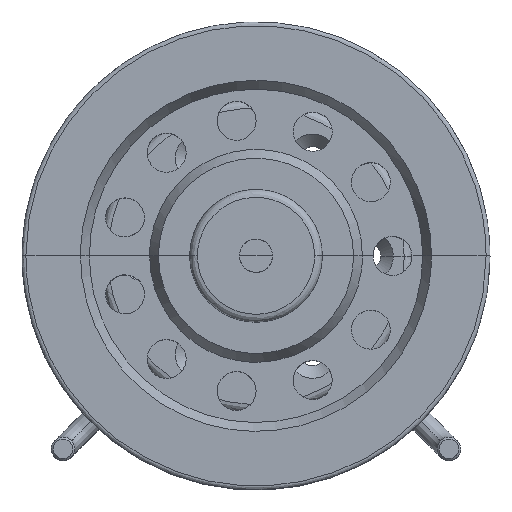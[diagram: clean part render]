
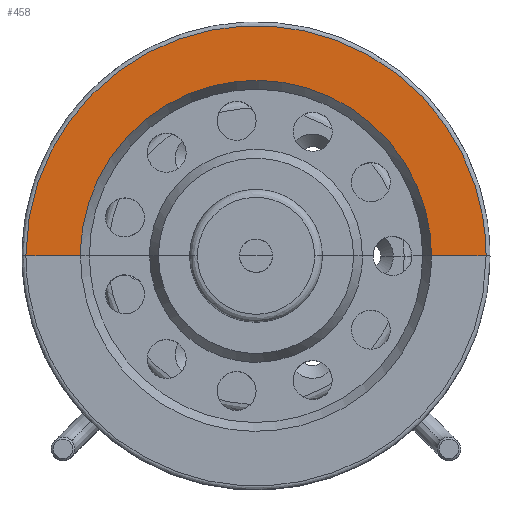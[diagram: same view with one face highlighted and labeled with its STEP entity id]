
A CAD part, top view. The second image highlights one B-rep face of the part: STEP entity #458.
In plain terms, the highlighted free-form (B-spline) face has degree [2, 1] with [5, 2] control points.
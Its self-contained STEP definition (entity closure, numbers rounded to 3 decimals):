
#458=ADVANCED_FACE($,(#767),#3934,.T.);
#767=FACE_OUTER_BOUND($,#1114,.T.);
#1114=EDGE_LOOP($,(#2295,#2296,#2297,#2298));
#2295=ORIENTED_EDGE($,*,*,#3217,.T.);
#2296=ORIENTED_EDGE($,*,*,#3124,.F.);
#2297=ORIENTED_EDGE($,*,*,#3132,.F.);
#2298=ORIENTED_EDGE($,*,*,#3196,.F.);
#3124=EDGE_CURVE($,#3589,#3650,#4295,.T.);
#3132=EDGE_CURVE($,#3580,#3589,#12921,.T.);
#3196=EDGE_CURVE($,#3641,#3580,#4341,.T.);
#3217=EDGE_CURVE($,#3641,#3650,#12951,.T.);
#3580=VERTEX_POINT($,#12567);
#3589=VERTEX_POINT($,#12576);
#3641=VERTEX_POINT($,#12628);
#3650=VERTEX_POINT($,#12637);
#3934=(
BOUNDED_SURFACE()
B_SPLINE_SURFACE(2,1,((#11975,#11976),(#11977,#11978),(#11979,#11980),(#11981,
#11982),(#11983,#11984)),.UNSPECIFIED.,.F.,.F.,.F.)
B_SPLINE_SURFACE_WITH_KNOTS((3,2,3),(2,2),(0.,1.571,3.142),
(81.,95.),.UNSPECIFIED.)
GEOMETRIC_REPRESENTATION_ITEM()
RATIONAL_B_SPLINE_SURFACE(((1.,1.),(0.707,0.707),
(1.,1.),(0.707,0.707),(1.,1.)))
REPRESENTATION_ITEM($)
SURFACE()
);
#4295=(
BOUNDED_CURVE()
B_SPLINE_CURVE(2,(#11281,#11282,#11283,#11284,#11285),.UNSPECIFIED.,.F.,
.F.)
B_SPLINE_CURVE_WITH_KNOTS((3,2,3),(0.,1.571,3.142),
.UNSPECIFIED.)
CURVE()
GEOMETRIC_REPRESENTATION_ITEM()
RATIONAL_B_SPLINE_CURVE((1.,0.707,1.,0.707,1.))
REPRESENTATION_ITEM($)
);
#4341=(
BOUNDED_CURVE()
B_SPLINE_CURVE(2,(#11543,#11544,#11545,#11546,#11547),.UNSPECIFIED.,.F.,
.F.)
B_SPLINE_CURVE_WITH_KNOTS((3,2,3),(-3.142,-1.571,0.),
.UNSPECIFIED.)
CURVE()
GEOMETRIC_REPRESENTATION_ITEM()
RATIONAL_B_SPLINE_CURVE((1.,0.707,1.,0.707,1.))
REPRESENTATION_ITEM($)
);
#11281=CARTESIAN_POINT($,(149.799,-64.236,55.048));
#11282=CARTESIAN_POINT($,(149.799,-19.236,55.048));
#11283=CARTESIAN_POINT($,(104.799,-19.236,55.048));
#11284=CARTESIAN_POINT($,(59.799,-19.236,55.048));
#11285=CARTESIAN_POINT($,(59.799,-64.236,55.048));
#11309=CARTESIAN_POINT($,(163.799,-64.236,55.048));
#11310=CARTESIAN_POINT($,(149.799,-64.236,55.048));
#11543=CARTESIAN_POINT($,(45.799,-64.236,55.048));
#11544=CARTESIAN_POINT($,(45.799,-5.236,55.048));
#11545=CARTESIAN_POINT($,(104.799,-5.236,55.048));
#11546=CARTESIAN_POINT($,(163.799,-5.236,55.048));
#11547=CARTESIAN_POINT($,(163.799,-64.236,55.048));
#11624=CARTESIAN_POINT($,(45.799,-64.236,55.048));
#11625=CARTESIAN_POINT($,(59.799,-64.236,55.048));
#11975=CARTESIAN_POINT($,(163.799,-64.236,55.048));
#11976=CARTESIAN_POINT($,(149.799,-64.236,55.048));
#11977=CARTESIAN_POINT($,(163.799,-5.236,55.048));
#11978=CARTESIAN_POINT($,(149.799,-19.236,55.048));
#11979=CARTESIAN_POINT($,(104.799,-5.236,55.048));
#11980=CARTESIAN_POINT($,(104.799,-19.236,55.048));
#11981=CARTESIAN_POINT($,(45.799,-5.236,55.048));
#11982=CARTESIAN_POINT($,(59.799,-19.236,55.048));
#11983=CARTESIAN_POINT($,(45.799,-64.236,55.048));
#11984=CARTESIAN_POINT($,(59.799,-64.236,55.048));
#12567=CARTESIAN_POINT($,(163.799,-64.236,55.048));
#12576=CARTESIAN_POINT($,(149.799,-64.236,55.048));
#12628=CARTESIAN_POINT($,(45.799,-64.236,55.048));
#12637=CARTESIAN_POINT($,(59.799,-64.236,55.048));
#12921=B_SPLINE_CURVE_WITH_KNOTS($,1,(#11309,#11310),.UNSPECIFIED.,.F.,.F.,
(2,2),(81.,95.),.UNSPECIFIED.);
#12951=B_SPLINE_CURVE_WITH_KNOTS($,1,(#11624,#11625),.UNSPECIFIED.,.F.,.F.,
(2,2),(81.,95.),.UNSPECIFIED.);
